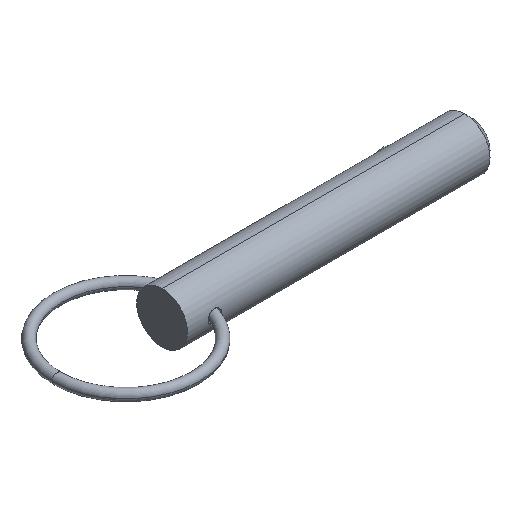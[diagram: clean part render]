
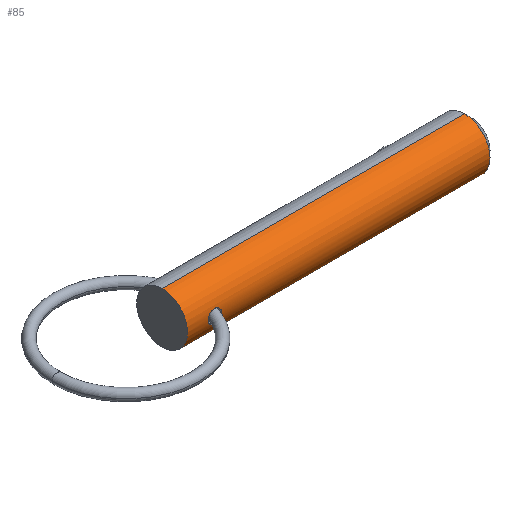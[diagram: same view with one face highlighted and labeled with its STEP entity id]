
A CAD part, isometric view. The second image highlights one B-rep face of the part: STEP entity #85.
In plain terms, the highlighted cylindrical face has radius 4.7 mm (diameter 9.4 mm), a partial arc.
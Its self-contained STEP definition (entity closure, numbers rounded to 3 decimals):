
#10 = CARTESIAN_POINT ( 'NONE',  ( 6.318, -4.691, -0.32 ) ) ;
#18 = CARTESIAN_POINT ( 'NONE',  ( 6.35, -4.7, 0. ) ) ;
#26 = CARTESIAN_POINT ( 'NONE',  ( 6.185, -4.66, -0.612 ) ) ;
#37 = DIRECTION ( 'NONE',  ( 1., 0., 0. ) ) ;
#39 = ORIENTED_EDGE ( 'NONE', *, *, #279, .T. ) ;
#52 = CARTESIAN_POINT ( 'NONE',  ( 3.895, -4.684, -0.39 ) ) ;
#66 = B_SPLINE_CURVE_WITH_KNOTS ( 'NONE', 3,
 ( #605, #336, #220, #340, #287, #146, #796, #462, #725, #140, #406, #540, #80, #609, #345, #802, #466, #153, #669, #347, #817, #18 ),
 .UNSPECIFIED., .F., .F.,
 ( 4, 2, 2, 2, 2, 2, 2, 2, 2, 2, 4 ),
 ( 0.001, 0.001, 0.002, 0.002, 0.003, 0.003, 0.003, 0.004, 0.004, 0.004, 0.005 ),
 .UNSPECIFIED. ) ;
#67 = EDGE_CURVE ( 'NONE', #260, #742, #765, .T. ) ;
#80 = CARTESIAN_POINT ( 'NONE',  ( 5.503, -4.562, 1.13 ) ) ;
#81 = CARTESIAN_POINT ( 'NONE',  ( 5.727, -4.582, -1.05 ) ) ;
#85 = ADVANCED_FACE ( 'NONE', ( #360, #434 ), #570, .T. ) ;
#94 = VERTEX_POINT ( 'NONE', #850 ) ;
#101 = CARTESIAN_POINT ( 'NONE',  ( 55.975, 0., 0. ) ) ;
#109 = CARTESIAN_POINT ( 'NONE',  ( 0., 0., 0. ) ) ;
#115 = CARTESIAN_POINT ( 'NONE',  ( 3.818, -4.7, 0. ) ) ;
#140 = CARTESIAN_POINT ( 'NONE',  ( 5.187, -4.55, 1.177 ) ) ;
#146 = CARTESIAN_POINT ( 'NONE',  ( 4.352, -4.607, 0.938 ) ) ;
#149 = AXIS2_PLACEMENT_3D ( 'NONE', #101, #561, #248 ) ;
#153 = CARTESIAN_POINT ( 'NONE',  ( 6.1, -4.641, 0.749 ) ) ;
#183 = EDGE_CURVE ( 'NONE', #423, #823, #372, .T. ) ;
#203 = VERTEX_POINT ( 'NONE', #614 ) ;
#205 = VECTOR ( 'NONE', #680, 1000. ) ;
#211 = CARTESIAN_POINT ( 'NONE',  ( 5.265, -4.55, -1.18 ) ) ;
#220 = CARTESIAN_POINT ( 'NONE',  ( 3.859, -4.691, 0.32 ) ) ;
#248 = DIRECTION ( 'NONE',  ( 0., 0., -1. ) ) ;
#256 = CARTESIAN_POINT ( 'NONE',  ( 6.094, -4.642, -0.742 ) ) ;
#259 = CARTESIAN_POINT ( 'NONE',  ( 3.829, -4.698, -0.161 ) ) ;
#260 = VERTEX_POINT ( 'NONE', #469 ) ;
#279 = EDGE_CURVE ( 'NONE', #94, #203, #554, .T. ) ;
#287 = CARTESIAN_POINT ( 'NONE',  ( 4.108, -4.644, 0.73 ) ) ;
#296 = CARTESIAN_POINT ( 'NONE',  ( 0., 0., 4.7 ) ) ;
#336 = CARTESIAN_POINT ( 'NONE',  ( 3.818, -4.7, 0.16 ) ) ;
#337 = CARTESIAN_POINT ( 'NONE',  ( 0., 0., 4.7 ) ) ;
#340 = CARTESIAN_POINT ( 'NONE',  ( 4.005, -4.663, 0.605 ) ) ;
#342 = CARTESIAN_POINT ( 'NONE',  ( 55.975, 0., 4.7 ) ) ;
#345 = CARTESIAN_POINT ( 'NONE',  ( 5.725, -4.583, 1.042 ) ) ;
#347 = CARTESIAN_POINT ( 'NONE',  ( 6.317, -4.691, 0.321 ) ) ;
#358 = CARTESIAN_POINT ( 'NONE',  ( 4.487, -4.589, -1.018 ) ) ;
#360 = FACE_OUTER_BOUND ( 'NONE', #374, .T. ) ;
#372 = LINE ( 'NONE', #337, #767 ) ;
#373 = EDGE_CURVE ( 'NONE', #742, #260, #66, .T. ) ;
#374 = EDGE_LOOP ( 'NONE', ( #694, #786, #39, #825 ) ) ;
#379 = AXIS2_PLACEMENT_3D ( 'NONE', #109, #724, #854 ) ;
#406 = CARTESIAN_POINT ( 'NONE',  ( 5.266, -4.551, 1.173 ) ) ;
#407 = AXIS2_PLACEMENT_3D ( 'NONE', #836, #37, #500 ) ;
#409 = CARTESIAN_POINT ( 'NONE',  ( 5.867, -4.601, -0.966 ) ) ;
#423 = VERTEX_POINT ( 'NONE', #296 ) ;
#434 = FACE_BOUND ( 'NONE', #441, .T. ) ;
#439 = EDGE_CURVE ( 'NONE', #823, #203, #855, .T. ) ;
#440 = CARTESIAN_POINT ( 'NONE',  ( 6.041, -4.631, -0.803 ) ) ;
#441 = EDGE_LOOP ( 'NONE', ( #616, #613 ) ) ;
#462 = CARTESIAN_POINT ( 'NONE',  ( 4.788, -4.561, 1.135 ) ) ;
#466 = CARTESIAN_POINT ( 'NONE',  ( 5.926, -4.611, 0.911 ) ) ;
#469 = CARTESIAN_POINT ( 'NONE',  ( 6.35, -4.7, 0. ) ) ;
#475 = CARTESIAN_POINT ( 'NONE',  ( 6.223, -4.669, -0.542 ) ) ;
#482 = CARTESIAN_POINT ( 'NONE',  ( 6.35, -4.7, 0. ) ) ;
#500 = DIRECTION ( 'NONE',  ( 0., 0., -1. ) ) ;
#540 = CARTESIAN_POINT ( 'NONE',  ( 5.424, -4.557, 1.149 ) ) ;
#552 = CARTESIAN_POINT ( 'NONE',  ( 3.818, -4.7, 0. ) ) ;
#554 = LINE ( 'NONE', #666, #205 ) ;
#561 = DIRECTION ( 'NONE',  ( 1., 0., 0. ) ) ;
#570 = CYLINDRICAL_SURFACE ( 'NONE', #379, 4.7 ) ;
#605 = CARTESIAN_POINT ( 'NONE',  ( 3.818, -4.7, 0. ) ) ;
#609 = CARTESIAN_POINT ( 'NONE',  ( 5.654, -4.575, 1.076 ) ) ;
#613 = ORIENTED_EDGE ( 'NONE', *, *, #67, .T. ) ;
#614 = CARTESIAN_POINT ( 'NONE',  ( 55.975, 0., -4.7 ) ) ;
#616 = ORIENTED_EDGE ( 'NONE', *, *, #373, .T. ) ;
#622 = CARTESIAN_POINT ( 'NONE',  ( 4.785, -4.561, -1.135 ) ) ;
#649 = EDGE_CURVE ( 'NONE', #423, #94, #769, .T. ) ;
#666 = CARTESIAN_POINT ( 'NONE',  ( 0., 0., -4.7 ) ) ;
#669 = CARTESIAN_POINT ( 'NONE',  ( 6.193, -4.662, 0.614 ) ) ;
#676 = CARTESIAN_POINT ( 'NONE',  ( 6.35, -4.7, -0.161 ) ) ;
#680 = DIRECTION ( 'NONE',  ( 1., 0., 0. ) ) ;
#694 = ORIENTED_EDGE ( 'NONE', *, *, #183, .F. ) ;
#719 = DIRECTION ( 'NONE',  ( 1., 0., 0. ) ) ;
#724 = DIRECTION ( 'NONE',  ( 1., 0., 0. ) ) ;
#725 = CARTESIAN_POINT ( 'NONE',  ( 4.947, -4.552, 1.169 ) ) ;
#727 = CARTESIAN_POINT ( 'NONE',  ( 4.945, -4.552, -1.169 ) ) ;
#742 = VERTEX_POINT ( 'NONE', #552 ) ;
#760 = CARTESIAN_POINT ( 'NONE',  ( 4.107, -4.644, -0.729 ) ) ;
#765 = B_SPLINE_CURVE_WITH_KNOTS ( 'NONE', 3,
 ( #482, #676, #10, #475, #26, #256, #440, #409, #81, #794, #211, #727, #622, #358, #830, #760, #788, #52, #842, #259, #784, #115 ),
 .UNSPECIFIED., .F., .F.,
 ( 4, 2, 2, 2, 2, 2, 2, 2, 2, 2, 4 ),
 ( 0.005, 0.005, 0.005, 0.006, 0.006, 0.007, 0.007, 0.008, 0.008, 0.008, 0.009 ),
 .UNSPECIFIED. ) ;
#767 = VECTOR ( 'NONE', #719, 1000. ) ;
#769 = CIRCLE ( 'NONE', #407, 4.7 ) ;
#784 = CARTESIAN_POINT ( 'NONE',  ( 3.818, -4.7, -0.08 ) ) ;
#786 = ORIENTED_EDGE ( 'NONE', *, *, #649, .T. ) ;
#788 = CARTESIAN_POINT ( 'NONE',  ( 4.005, -4.663, -0.605 ) ) ;
#794 = CARTESIAN_POINT ( 'NONE',  ( 5.427, -4.556, -1.156 ) ) ;
#796 = CARTESIAN_POINT ( 'NONE',  ( 4.491, -4.588, 1.02 ) ) ;
#802 = CARTESIAN_POINT ( 'NONE',  ( 5.861, -4.601, 0.96 ) ) ;
#817 = CARTESIAN_POINT ( 'NONE',  ( 6.35, -4.7, 0.161 ) ) ;
#823 = VERTEX_POINT ( 'NONE', #342 ) ;
#825 = ORIENTED_EDGE ( 'NONE', *, *, #439, .F. ) ;
#830 = CARTESIAN_POINT ( 'NONE',  ( 4.349, -4.607, -0.937 ) ) ;
#836 = CARTESIAN_POINT ( 'NONE',  ( 0., 0., 0. ) ) ;
#842 = CARTESIAN_POINT ( 'NONE',  ( 3.867, -4.69, -0.315 ) ) ;
#850 = CARTESIAN_POINT ( 'NONE',  ( 0., 0., -4.7 ) ) ;
#854 = DIRECTION ( 'NONE',  ( 0., 0., -1. ) ) ;
#855 = CIRCLE ( 'NONE', #149, 4.7 ) ;
